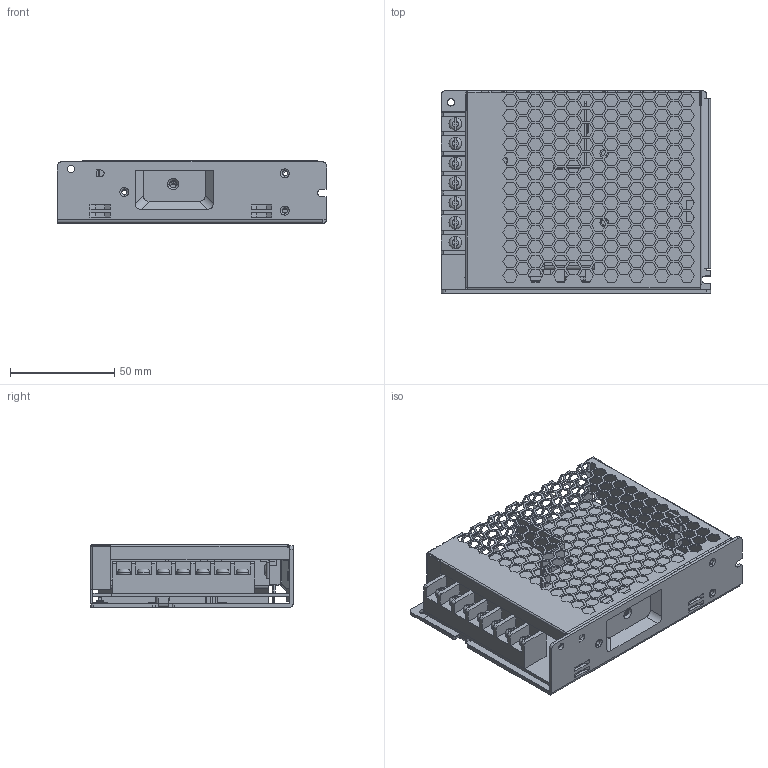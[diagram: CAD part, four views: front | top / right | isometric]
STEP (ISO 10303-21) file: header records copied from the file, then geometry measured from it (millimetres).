
FILE_DESCRIPTION(('Creo Elements/Direct Modeling STEP Export'),'2;1');
FILE_NAME('LRS-100.stp','2021-03-18T14:39:39',(''),(''),'PTC Creo Elements/Direct Modeling STEP processor for AP214 (Solid Model)','PTC Creo Elements/Direct Modeling 19.0 09-May-2014 (C) Parametric Technology GmbH','');
FILE_SCHEMA(('AUTOMOTIVE_DESIGN { 1 0 10303 214 1 1 1 1 }'));
Length unit declared in the file: millimetre
Products named in the file (19): _S_JU_S___.PRT; TN_1_1_1_1.PRT.1; 55.PRT; P1.PRT; MOS15_5X10_1_1_1_1_1_1_1_3_2.PRT; 444.PRT; 444_1.PRT; 444_2.PRT; EE.PRT; HS1.PRT; HS2.PRT; PCB.PRT; G5.ASM; PIN_1_1.PRT; P2.PRT; HS.ASM; MHS033_1.PRT; LRS-100_1.ASM; LRS-100.stp
Assembly tree (20 placements, depth 4):
  LRS-100.stp
    LRS-100_1.ASM
      MOS15_5X10_1_1_1_1_1_1_1_3_2.PRT  x3
      MHS033_1.PRT
      HS.ASM
        P2.PRT
        PIN_1_1.PRT
      G5.ASM
        PCB.PRT
        HS2.PRT
        HS1.PRT
      EE.PRT
      444_2.PRT
      444_1.PRT
      444.PRT
      P1.PRT
      55.PRT
      TN_1_1_1_1.PRT.1
    _S_JU_S___.PRT
Bounding box: 129 x 97 x 30 mm (x, y, z)
Volume: 70069.4 mm3; surface area: 114733.6 mm2
Topology: 13 solids, 13 shells, 2303 faces, 6641 edges, 4355 vertices
Faces by surface type: plane 1981, cylinder 236, torus 46, bspline 34, cone 6
Entity records: 76496 total; most frequent: CARTESIAN_POINT 15792, ORIENTED_EDGE 13018, DIRECTION 11114, EDGE_CURVE 6509, VECTOR 5898, LINE 5898, VERTEX_POINT 4267, EDGE_LOOP 2780
